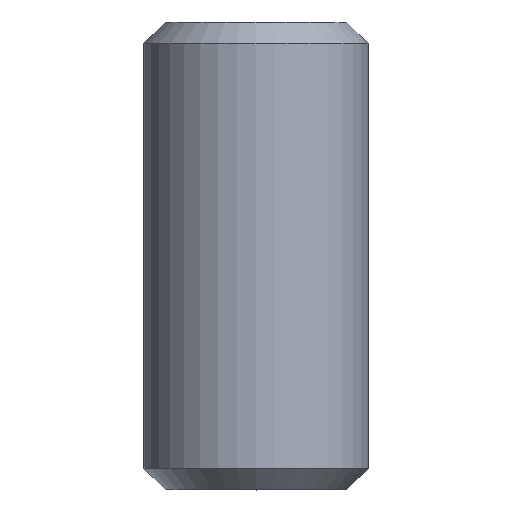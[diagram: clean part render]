
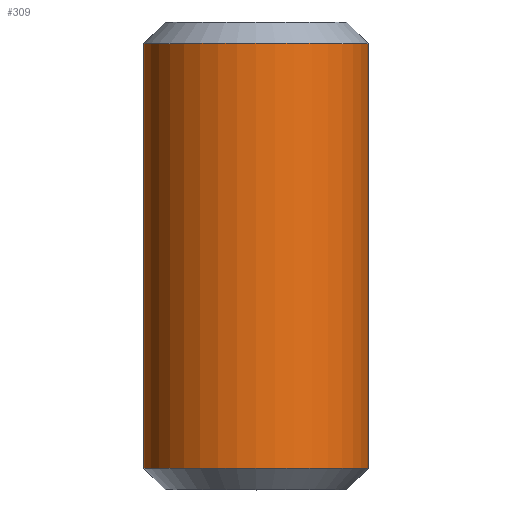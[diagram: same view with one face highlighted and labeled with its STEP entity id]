
A CAD part, top view. The second image highlights one B-rep face of the part: STEP entity #309.
In plain terms, the highlighted cylindrical face has radius 6 mm (diameter 12 mm), a full revolution.
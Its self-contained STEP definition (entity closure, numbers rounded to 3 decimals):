
#21=CYLINDRICAL_SURFACE('',#346,6.);
#84=ORIENTED_EDGE('',*,*,#159,.F.);
#85=ORIENTED_EDGE('',*,*,#158,.T.);
#158=EDGE_CURVE('',#196,#196,#217,.T.);
#159=EDGE_CURVE('',#197,#197,#218,.T.);
#196=VERTEX_POINT('',#494);
#197=VERTEX_POINT('',#497);
#217=CIRCLE('',#345,6.);
#218=CIRCLE('',#347,6.);
#234=EDGE_LOOP('',(#84));
#235=EDGE_LOOP('',(#85));
#264=FACE_BOUND('',#234,.T.);
#265=FACE_BOUND('',#235,.T.);
#309=ADVANCED_FACE('',(#264,#265),#21,.T.);
#345=AXIS2_PLACEMENT_3D('',#493,#392,#393);
#346=AXIS2_PLACEMENT_3D('',#495,#394,#395);
#347=AXIS2_PLACEMENT_3D('',#496,#396,#397);
#392=DIRECTION('',(0.,-1.,0.));
#393=DIRECTION('',(0.,0.,-1.));
#394=DIRECTION('',(0.,-1.,0.));
#395=DIRECTION('',(0.,0.,-1.));
#396=DIRECTION('',(0.,-1.,0.));
#397=DIRECTION('',(0.,0.,-1.));
#493=CARTESIAN_POINT('',(0.,23.85,0.));
#494=CARTESIAN_POINT('',(0.,23.85,-6.));
#495=CARTESIAN_POINT('',(0.,0.,0.));
#496=CARTESIAN_POINT('',(0.,1.15,0.));
#497=CARTESIAN_POINT('',(0.,1.15,-6.));
